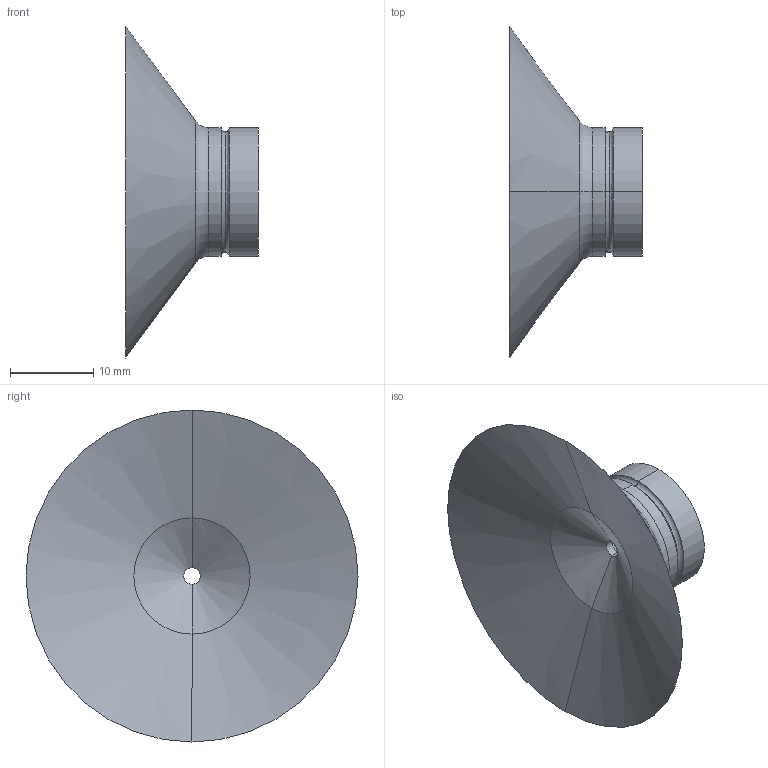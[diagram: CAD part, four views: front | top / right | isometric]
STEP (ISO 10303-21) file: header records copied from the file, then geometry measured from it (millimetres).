
FILE_DESCRIPTION (( 'STEP AP214' ), '1' );
FILE_NAME ('VSH-40R.STEP', '2019-11-14T01:39:19', ( '微软用户' ), ( '微软中国' ), 'SwSTEP 2.0', 'SolidWorks 2016', '' );
FILE_SCHEMA (( 'AUTOMOTIVE_DESIGN' ));
Length unit declared in the file: millimetre
Products named in the file (1): VSH-40R
Bounding box: 16 x 40 x 40 mm (x, y, z)
Volume: 3759.7 mm3; surface area: 3473.2 mm2
Topology: 1 solids, 1 shells, 28 faces, 56 edges, 32 vertices
Faces by surface type: cylinder 12, cone 6, bspline 4, plane 4, torus 2
Entity records: 808 total; most frequent: CARTESIAN_POINT 189, DIRECTION 136, ORIENTED_EDGE 112, AXIS2_PLACEMENT_3D 59, EDGE_CURVE 56, CIRCLE 34, EDGE_LOOP 32, VERTEX_POINT 32
